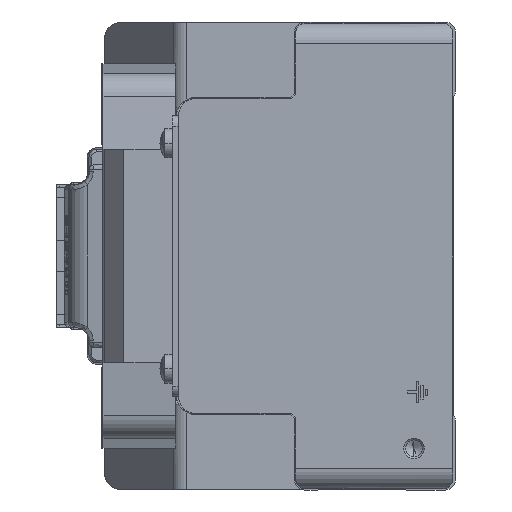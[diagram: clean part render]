
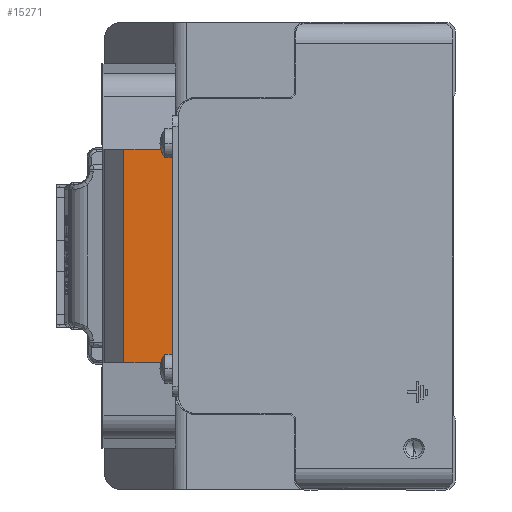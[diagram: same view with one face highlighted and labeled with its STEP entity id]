
A CAD part, left-side view. The second image highlights one B-rep face of the part: STEP entity #15271.
In plain terms, the highlighted planar face has unit normal (-1, 0, 0) as drawn and (0, 0, 1) by its records, which use the part's own axes.
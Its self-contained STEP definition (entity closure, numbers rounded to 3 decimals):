
#235 = CARTESIAN_POINT ( 'NONE',  ( 20., -2., 170. ) ) ;
#538 = LINE ( 'NONE', #235, #30105 ) ;
#1716 = EDGE_LOOP ( 'NONE', ( #13004, #12586, #24465, #53460, #32942, #17269, #13509, #7957 ) ) ;
#1921 = VECTOR ( 'NONE', #24723, 1000. ) ;
#3820 = VECTOR ( 'NONE', #5062, 1000. ) ;
#3915 = VERTEX_POINT ( 'NONE', #44066 ) ;
#4425 = VERTEX_POINT ( 'NONE', #21656 ) ;
#5062 = DIRECTION ( 'NONE',  ( 0.243, -0.97, 0. ) ) ;
#6655 = EDGE_CURVE ( 'NONE', #39472, #52614, #7202, .T. ) ;
#7202 = LINE ( 'NONE', #52131, #41996 ) ;
#7957 = ORIENTED_EDGE ( 'NONE', *, *, #19182, .F. ) ;
#10315 = CARTESIAN_POINT ( 'NONE',  ( 19.5, 0., 170. ) ) ;
#10644 = LINE ( 'NONE', #46996, #1921 ) ;
#11224 = EDGE_CURVE ( 'NONE', #4425, #44945, #31989, .T. ) ;
#11677 = DIRECTION ( 'NONE',  ( 0., 0., -1. ) ) ;
#12586 = ORIENTED_EDGE ( 'NONE', *, *, #19857, .T. ) ;
#13004 = ORIENTED_EDGE ( 'NONE', *, *, #6655, .T. ) ;
#13509 = ORIENTED_EDGE ( 'NONE', *, *, #50282, .T. ) ;
#14338 = DIRECTION ( 'NONE',  ( 0.243, -0.97, 0. ) ) ;
#15271 = ADVANCED_FACE ( 'NONE', ( #38400 ), #33697, .F. ) ;
#15579 = LINE ( 'NONE', #51646, #36579 ) ;
#17269 = ORIENTED_EDGE ( 'NONE', *, *, #50626, .T. ) ;
#18729 = DIRECTION ( 'NONE',  ( 0.243, 0.97, 0. ) ) ;
#19182 = EDGE_CURVE ( 'NONE', #39472, #56470, #35514, .T. ) ;
#19297 = EDGE_CURVE ( 'NONE', #3915, #57119, #36664, .T. ) ;
#19857 = EDGE_CURVE ( 'NONE', #52614, #3915, #15579, .T. ) ;
#21656 = CARTESIAN_POINT ( 'NONE',  ( -19.5, 0., 170. ) ) ;
#24465 = ORIENTED_EDGE ( 'NONE', *, *, #19297, .T. ) ;
#24723 = DIRECTION ( 'NONE',  ( 0.243, 0.97, 0. ) ) ;
#25507 = VECTOR ( 'NONE', #27919, 1000. ) ;
#26427 = DIRECTION ( 'NONE',  ( 0., -1., 0. ) ) ;
#27919 = DIRECTION ( 'NONE',  ( 1., 0., 0. ) ) ;
#28189 = CARTESIAN_POINT ( 'NONE',  ( 20.5, 0., 170. ) ) ;
#30105 = VECTOR ( 'NONE', #18729, 1000. ) ;
#30181 = AXIS2_PLACEMENT_3D ( 'NONE', #51584, #11677, #43379 ) ;
#31989 = LINE ( 'NONE', #53717, #25507 ) ;
#32092 = LINE ( 'NONE', #45321, #3820 ) ;
#32942 = ORIENTED_EDGE ( 'NONE', *, *, #11224, .T. ) ;
#33225 = VERTEX_POINT ( 'NONE', #42815 ) ;
#33697 = PLANE ( 'NONE',  #30181 ) ;
#35514 = LINE ( 'NONE', #35800, #53356 ) ;
#35800 = CARTESIAN_POINT ( 'NONE',  ( 20.5, 14., 170. ) ) ;
#36579 = VECTOR ( 'NONE', #55796, 1000. ) ;
#36664 = LINE ( 'NONE', #54539, #44952 ) ;
#38400 = FACE_OUTER_BOUND ( 'NONE', #1716, .T. ) ;
#39472 = VERTEX_POINT ( 'NONE', #45017 ) ;
#41996 = VECTOR ( 'NONE', #47730, 1000. ) ;
#42815 = CARTESIAN_POINT ( 'NONE',  ( 20., -2., 170. ) ) ;
#43379 = DIRECTION ( 'NONE',  ( -1., 0., 0. ) ) ;
#44066 = CARTESIAN_POINT ( 'NONE',  ( -20.5, 0., 170. ) ) ;
#44945 = VERTEX_POINT ( 'NONE', #10315 ) ;
#44952 = VECTOR ( 'NONE', #14338, 1000. ) ;
#45017 = CARTESIAN_POINT ( 'NONE',  ( 20.5, 10., 170. ) ) ;
#45321 = CARTESIAN_POINT ( 'NONE',  ( 19.5, 0., 170. ) ) ;
#46996 = CARTESIAN_POINT ( 'NONE',  ( -20., -2., 170. ) ) ;
#47730 = DIRECTION ( 'NONE',  ( -1., 0., 0. ) ) ;
#48668 = EDGE_CURVE ( 'NONE', #57119, #4425, #10644, .T. ) ;
#49138 = CARTESIAN_POINT ( 'NONE',  ( -20.5, 10., 170. ) ) ;
#49735 = CARTESIAN_POINT ( 'NONE',  ( -20., -2., 170. ) ) ;
#50282 = EDGE_CURVE ( 'NONE', #33225, #56470, #538, .T. ) ;
#50626 = EDGE_CURVE ( 'NONE', #44945, #33225, #32092, .T. ) ;
#51584 = CARTESIAN_POINT ( 'NONE',  ( -20.5, 14., 170. ) ) ;
#51646 = CARTESIAN_POINT ( 'NONE',  ( -20.5, 14., 170. ) ) ;
#52131 = CARTESIAN_POINT ( 'NONE',  ( 20.5, 10., 170. ) ) ;
#52614 = VERTEX_POINT ( 'NONE', #49138 ) ;
#53356 = VECTOR ( 'NONE', #26427, 1000. ) ;
#53460 = ORIENTED_EDGE ( 'NONE', *, *, #48668, .T. ) ;
#53717 = CARTESIAN_POINT ( 'NONE',  ( -20.5, 0., 170. ) ) ;
#54539 = CARTESIAN_POINT ( 'NONE',  ( -20.5, 0., 170. ) ) ;
#55796 = DIRECTION ( 'NONE',  ( 0., -1., 0. ) ) ;
#56470 = VERTEX_POINT ( 'NONE', #28189 ) ;
#57119 = VERTEX_POINT ( 'NONE', #49735 ) ;
